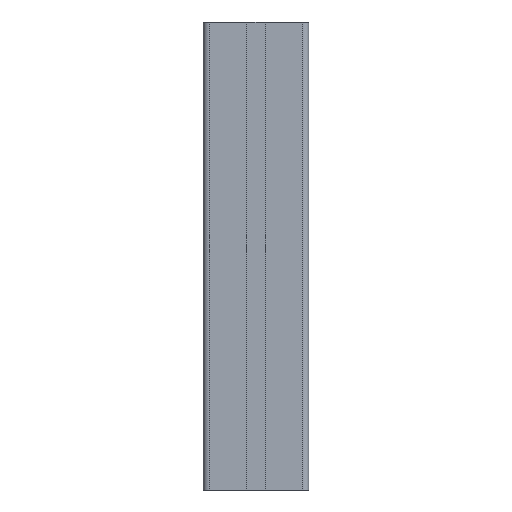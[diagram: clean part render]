
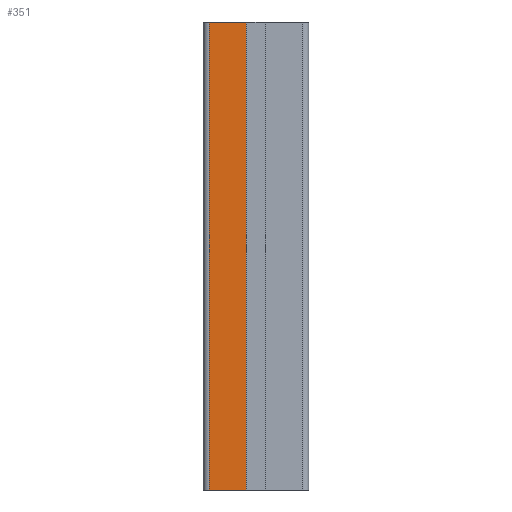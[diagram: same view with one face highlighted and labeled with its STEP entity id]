
A CAD part, left-side view. The second image highlights one B-rep face of the part: STEP entity #351.
In plain terms, the highlighted planar face has unit normal (-1, 0, 0).
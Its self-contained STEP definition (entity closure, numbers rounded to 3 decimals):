
#9 = DIRECTION ( 'NONE',  ( 0., 0., -1. ) ) ;
#18 = CARTESIAN_POINT ( 'NONE',  ( -21.811, 19.872, 200. ) ) ;
#24 = CARTESIAN_POINT ( 'NONE',  ( -21.811, 19.872, 200. ) ) ;
#28 = VERTEX_POINT ( 'NONE', #1486 ) ;
#48 = VECTOR ( 'NONE', #779, 1000. ) ;
#69 = LINE ( 'NONE', #989, #48 ) ;
#93 = DIRECTION ( 'NONE',  ( 1., 0., 0. ) ) ;
#351 = ADVANCED_FACE ( 'NONE', ( #2014 ), #3575, .F. ) ;
#357 = DIRECTION ( 'NONE',  ( 0., 0., -1. ) ) ;
#454 = CARTESIAN_POINT ( 'NONE',  ( -21.811, 3.972, 0. ) ) ;
#510 = VECTOR ( 'NONE', #1860, 1000. ) ;
#532 = LINE ( 'NONE', #18, #510 ) ;
#609 = CARTESIAN_POINT ( 'NONE',  ( -21.811, 19.872, 200. ) ) ;
#671 = EDGE_CURVE ( 'NONE', #3079, #28, #1682, .T. ) ;
#695 = EDGE_CURVE ( 'NONE', #1356, #3167, #1661, .T. ) ;
#779 = DIRECTION ( 'NONE',  ( 0., -1., 0. ) ) ;
#923 = ORIENTED_EDGE ( 'NONE', *, *, #2319, .T. ) ;
#928 = ORIENTED_EDGE ( 'NONE', *, *, #695, .F. ) ;
#961 = ORIENTED_EDGE ( 'NONE', *, *, #1823, .F. ) ;
#976 = ORIENTED_EDGE ( 'NONE', *, *, #671, .T. ) ;
#989 = CARTESIAN_POINT ( 'NONE',  ( -21.811, 19.872, 0. ) ) ;
#1280 = CARTESIAN_POINT ( 'NONE',  ( -21.811, 19.872, 200. ) ) ;
#1356 = VERTEX_POINT ( 'NONE', #1439 ) ;
#1439 = CARTESIAN_POINT ( 'NONE',  ( -21.811, 3.972, 200. ) ) ;
#1453 = DIRECTION ( 'NONE',  ( 0., 0., -1. ) ) ;
#1486 = CARTESIAN_POINT ( 'NONE',  ( -21.811, 19.872, 0. ) ) ;
#1579 = CARTESIAN_POINT ( 'NONE',  ( -21.811, 3.972, 200. ) ) ;
#1655 = VECTOR ( 'NONE', #1453, 1000. ) ;
#1661 = LINE ( 'NONE', #1579, #1655 ) ;
#1675 = VECTOR ( 'NONE', #357, 1000. ) ;
#1682 = LINE ( 'NONE', #1280, #1675 ) ;
#1823 = EDGE_CURVE ( 'NONE', #3079, #1356, #532, .T. ) ;
#1860 = DIRECTION ( 'NONE',  ( 0., -1., 0. ) ) ;
#2014 = FACE_OUTER_BOUND ( 'NONE', #3115, .T. ) ;
#2319 = EDGE_CURVE ( 'NONE', #28, #3167, #69, .T. ) ;
#3079 = VERTEX_POINT ( 'NONE', #609 ) ;
#3115 = EDGE_LOOP ( 'NONE', ( #923, #928, #961, #976 ) ) ;
#3167 = VERTEX_POINT ( 'NONE', #454 ) ;
#3191 = AXIS2_PLACEMENT_3D ( 'NONE', #24, #93, #9 ) ;
#3575 = PLANE ( 'NONE',  #3191 ) ;
